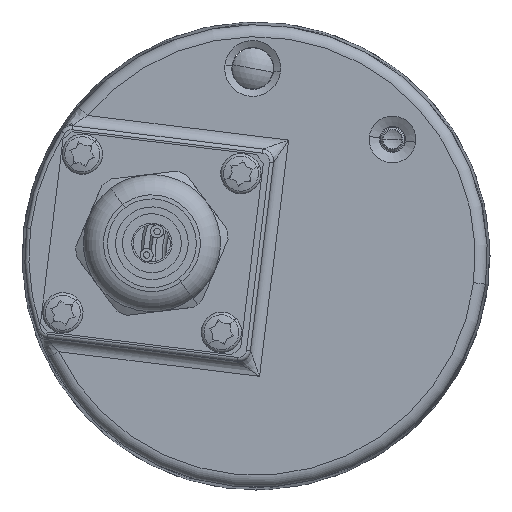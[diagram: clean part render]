
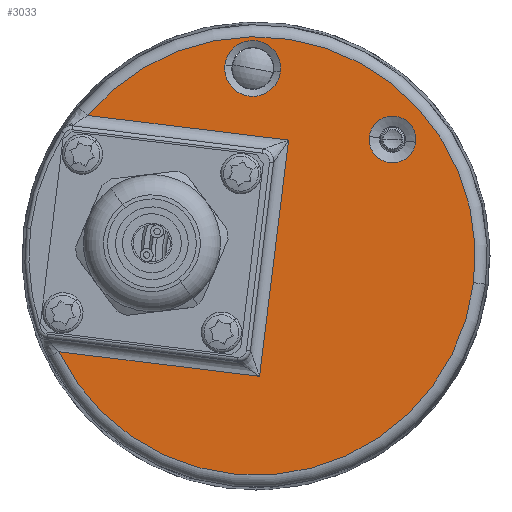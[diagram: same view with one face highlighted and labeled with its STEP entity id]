
A CAD part, left-side view. The second image highlights one B-rep face of the part: STEP entity #3033.
In plain terms, the highlighted planar face has unit normal (-1, 0, 0).
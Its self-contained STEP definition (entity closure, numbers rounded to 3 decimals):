
#881 = DIRECTION ( 'NONE',  ( 0., -0.993, -0.122 ) ) ;
#882 = DIRECTION ( 'NONE',  ( -1., 0., 0. ) ) ;
#883 = CARTESIAN_POINT ( 'NONE',  ( -19., 0., 0. ) ) ;
#884 = AXIS2_PLACEMENT_3D ( 'NONE', #883, #882, #881 ) ;
#889 = CIRCLE ( 'NONE', #884, 27.173 ) ;
#1480 = CARTESIAN_POINT ( 'NONE',  ( -19., 3.846, 23.669 ) ) ;
#1481 = DIRECTION ( 'NONE',  ( 0., -0.993, -0.122 ) ) ;
#1482 = DIRECTION ( 'NONE',  ( 1., 0., 0. ) ) ;
#1483 = CARTESIAN_POINT ( 'NONE',  ( -19., 0.406, 23.246 ) ) ;
#1484 = AXIS2_PLACEMENT_3D ( 'NONE', #1483, #1482, #1481 ) ;
#1485 = CIRCLE ( 'NONE', #1484, 3.466 ) ;
#1486 = CARTESIAN_POINT ( 'NONE',  ( -19., -3.034, 22.824 ) ) ;
#2608 = VERTEX_POINT ( 'NONE', #13185 ) ;
#2609 = VERTEX_POINT ( 'NONE', #13131 ) ;
#2710 = VERTEX_POINT ( 'NONE', #1486 ) ;
#2712 = EDGE_CURVE ( 'NONE', #2713, #2710, #1485, .T. ) ;
#2713 = VERTEX_POINT ( 'NONE', #1480 ) ;
#2727 = EDGE_CURVE ( 'NONE', #2608, #2609, #889, .T. ) ;
#2966 = VERTEX_POINT ( 'NONE', #5420 ) ;
#2973 = VERTEX_POINT ( 'NONE', #5452 ) ;
#2974 = VERTEX_POINT ( 'NONE', #5451 ) ;
#2975 = ORIENTED_EDGE ( 'NONE', *, *, #2976, .T. ) ;
#2976 = EDGE_CURVE ( 'NONE', #2974, #2608, #5450, .T. ) ;
#2977 = ORIENTED_EDGE ( 'NONE', *, *, #2727, .T. ) ;
#2978 = ORIENTED_EDGE ( 'NONE', *, *, #3180, .T. ) ;
#2979 = ORIENTED_EDGE ( 'NONE', *, *, #2980, .T. ) ;
#2980 = EDGE_CURVE ( 'NONE', #2973, #2974, #5369, .T. ) ;
#2981 = VERTEX_POINT ( 'NONE', #5365 ) ;
#2994 = EDGE_CURVE ( 'NONE', #2981, #2966, #5314, .T. ) ;
#3032 = EDGE_CURVE ( 'NONE', #2710, #2713, #5478, .T. ) ;
#3033 = ADVANCED_FACE ( 'NONE', ( #5486, #5487, #5488 ), #10464, .F. ) ;
#3034 = EDGE_LOOP ( 'NONE', ( #3035, #3036 ) ) ;
#3035 = ORIENTED_EDGE ( 'NONE', *, *, #2712, .T. ) ;
#3036 = ORIENTED_EDGE ( 'NONE', *, *, #3032, .T. ) ;
#3037 = EDGE_LOOP ( 'NONE', ( #3038, #3039 ) ) ;
#3038 = ORIENTED_EDGE ( 'NONE', *, *, #2994, .T. ) ;
#3039 = ORIENTED_EDGE ( 'NONE', *, *, #3148, .T. ) ;
#3040 = EDGE_LOOP ( 'NONE', ( #2979, #2975, #2977, #2978, #3182 ) ) ;
#3148 = EDGE_CURVE ( 'NONE', #2966, #2981, #12319, .T. ) ;
#3180 = EDGE_CURVE ( 'NONE', #2609, #3181, #12340, .T. ) ;
#3181 = VERTEX_POINT ( 'NONE', #12336 ) ;
#3182 = ORIENTED_EDGE ( 'NONE', *, *, #3183, .T. ) ;
#3183 = EDGE_CURVE ( 'NONE', #3181, #2973, #12334, .T. ) ;
#5310 = DIRECTION ( 'NONE',  ( 0., -0.993, -0.122 ) ) ;
#5311 = DIRECTION ( 'NONE',  ( 1., 0., 0. ) ) ;
#5312 = CARTESIAN_POINT ( 'NONE',  ( -19., -16.919, 14.45 ) ) ;
#5313 = AXIS2_PLACEMENT_3D ( 'NONE', #5312, #5311, #5310 ) ;
#5314 = CIRCLE ( 'NONE', #5313, 2.899 ) ;
#5365 = CARTESIAN_POINT ( 'NONE',  ( -19., -14.042, 14.804 ) ) ;
#5366 = DIRECTION ( 'NONE',  ( 0., 0.993, 0.122 ) ) ;
#5367 = VECTOR ( 'NONE', #5366, 1000. ) ;
#5368 = CARTESIAN_POINT ( 'NONE',  ( -19., 27.014, -11.544 ) ) ;
#5369 = LINE ( 'NONE', #5368, #5367 ) ;
#5420 = CARTESIAN_POINT ( 'NONE',  ( -19., -19.796, 14.097 ) ) ;
#5446 = DIRECTION ( 'NONE',  ( 0., -0.993, -0.122 ) ) ;
#5447 = DIRECTION ( 'NONE',  ( -1., 0., 0. ) ) ;
#5448 = CARTESIAN_POINT ( 'NONE',  ( -19., 0., 0. ) ) ;
#5449 = AXIS2_PLACEMENT_3D ( 'NONE', #5448, #5447, #5446 ) ;
#5450 = CIRCLE ( 'NONE', #5449, 27.173 ) ;
#5451 = CARTESIAN_POINT ( 'NONE',  ( -19., 24.448, -11.859 ) ) ;
#5452 = CARTESIAN_POINT ( 'NONE',  ( -19., -0.436, -14.914 ) ) ;
#5478 = CIRCLE ( 'NONE', #5482, 3.466 ) ;
#5482 = AXIS2_PLACEMENT_3D ( 'NONE', #5499, #5483, #5484 ) ;
#5483 = DIRECTION ( 'NONE',  ( 1., 0., 0. ) ) ;
#5484 = DIRECTION ( 'NONE',  ( 0., -0.993, -0.122 ) ) ;
#5486 = FACE_BOUND ( 'NONE', #3034, .T. ) ;
#5487 = FACE_BOUND ( 'NONE', #3037, .T. ) ;
#5488 = FACE_OUTER_BOUND ( 'NONE', #3040, .T. ) ;
#5499 = CARTESIAN_POINT ( 'NONE',  ( -19., 0.406, 23.246 ) ) ;
#10278 = DIRECTION ( 'NONE',  ( 0., -0.993, -0.122 ) ) ;
#10325 = CARTESIAN_POINT ( 'NONE',  ( -19., 0., 0. ) ) ;
#10360 = DIRECTION ( 'NONE',  ( 1., 0., 0. ) ) ;
#10464 = PLANE ( 'NONE',  #10475 ) ;
#10475 = AXIS2_PLACEMENT_3D ( 'NONE', #10325, #10360, #10278 ) ;
#12311 = DIRECTION ( 'NONE',  ( 0., -0.993, -0.122 ) ) ;
#12312 = DIRECTION ( 'NONE',  ( 1., 0., 0. ) ) ;
#12313 = CARTESIAN_POINT ( 'NONE',  ( -19., -16.919, 14.45 ) ) ;
#12314 = AXIS2_PLACEMENT_3D ( 'NONE', #12313, #12312, #12311 ) ;
#12319 = CIRCLE ( 'NONE', #12314, 2.899 ) ;
#12331 = DIRECTION ( 'NONE',  ( 0., 0.122, -0.993 ) ) ;
#12332 = VECTOR ( 'NONE', #12331, 1000. ) ;
#12333 = CARTESIAN_POINT ( 'NONE',  ( -19., -0.618, -13.425 ) ) ;
#12334 = LINE ( 'NONE', #12333, #12332 ) ;
#12336 = CARTESIAN_POINT ( 'NONE',  ( -19., -4.031, 14.366 ) ) ;
#12337 = DIRECTION ( 'NONE',  ( 0., -0.993, -0.122 ) ) ;
#12338 = VECTOR ( 'NONE', #12337, 1000. ) ;
#12339 = CARTESIAN_POINT ( 'NONE',  ( -19., -2.542, 14.549 ) ) ;
#12340 = LINE ( 'NONE', #12339, #12338 ) ;
#13131 = CARTESIAN_POINT ( 'NONE',  ( -19., 20.853, 17.421 ) ) ;
#13185 = CARTESIAN_POINT ( 'NONE',  ( -19., -26.97, -3.312 ) ) ;
